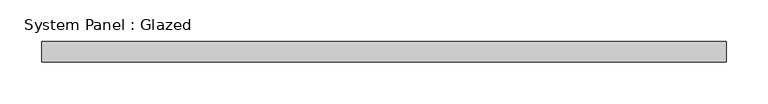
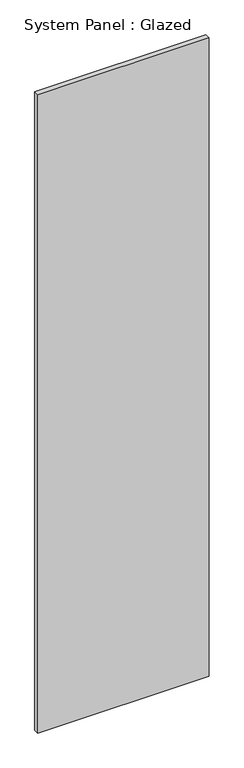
"""IFC4 building model written with IfcOpenShell, lengths in millimetres: plate geometry, System Panel : Glazed."""

from ifc_helpers import new_model, si_unit, origin, origin_with_axes, place, context, project, spatial, polyline, outline, extrude, source, transform, mapped, element, save


def system_panel_glazed_5e317294(model_context):
    return source(origin(), model_context, "Body", "SweptSolid", [
        extrude(outline(polyline([(412.25, 24.5), (-412.25, 24.5), (-412.25, 49.5), (412.25, 49.5), (412.25, 24.5)])), origin_with_axes(), (0.0, 0.0, 1.0), 3250.0),
    ])


if __name__ == "__main__":
    model = new_model("IFC4")
    model_context = context("Model", 3, world=origin())
    ifc_project = project(units=[si_unit("LENGTHUNIT", "METRE", prefix="MILLI")], contexts=[model_context])
    site = spatial("IfcSite", under=ifc_project)
    building = spatial("IfcBuilding", under=site)
    placement = place(None, origin())
    system_panel_glazed_shape = system_panel_glazed_5e317294(model_context)
    element("IfcPlate", 1, ObjectType="System Panel : Glazed", at=placement, inside=building, context=model_context, shape_type="MappedRepresentation", body=[
        mapped(system_panel_glazed_shape, transform((0.0, 0.0, 0.0), x_axis=(1.0, 0.0, 0.0), y_axis=(0.0, 1.0, 0.0), z_axis=(0.0, 0.0, 1.0))),
    ])
    save(model, "model.ifc")
